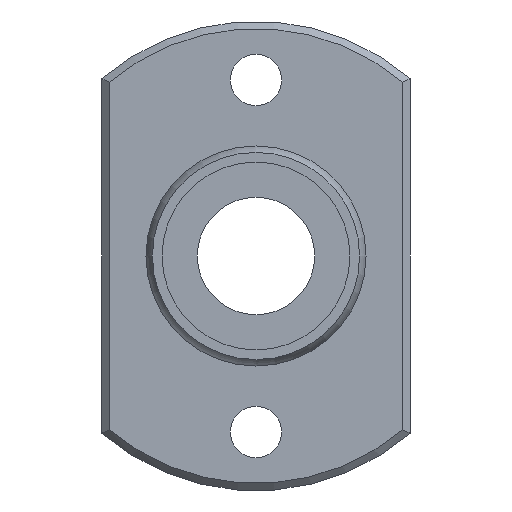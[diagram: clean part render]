
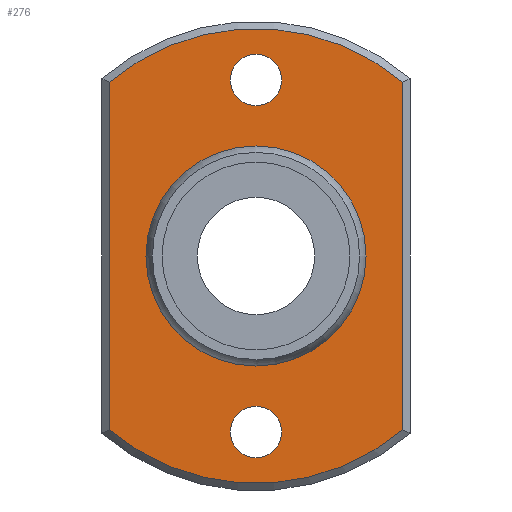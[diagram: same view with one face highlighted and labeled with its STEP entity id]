
A CAD part, left-side view. The second image highlights one B-rep face of the part: STEP entity #276.
In plain terms, the highlighted planar face has unit normal (-1, 0, 0).
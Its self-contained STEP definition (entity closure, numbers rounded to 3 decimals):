
#59=CARTESIAN_POINT('',(5.,10.,-11.843));
#60=VERTEX_POINT('',#59);
#68=CARTESIAN_POINT('',(5.,10.,11.843));
#69=VERTEX_POINT('',#68);
#70=CARTESIAN_POINT('',(5.,10.,-11.843));
#71=DIRECTION('',(0.0,0.0,1.0));
#72=VECTOR('',#71,23.685);
#73=LINE('',#70,#72);
#74=EDGE_CURVE('',#60,#69,#73,.T.);
#101=CARTESIAN_POINT('',(5.,-10.,11.843));
#102=VERTEX_POINT('',#101);
#103=CARTESIAN_POINT('',(5.,0.0,0.0));
#104=DIRECTION('',(1.0,0.0,0.0));
#105=DIRECTION('',(0.0,0.0,1.0));
#106=AXIS2_PLACEMENT_3D('',#103,#104,#105);
#107=CIRCLE('',#106,15.5);
#108=EDGE_CURVE('',#69,#102,#107,.T.);
#134=CARTESIAN_POINT('',(5.,-10.,-11.843));
#135=VERTEX_POINT('',#134);
#136=CARTESIAN_POINT('',(5.,-10.,11.843));
#137=DIRECTION('',(0.0,0.0,-1.0));
#138=VECTOR('',#137,23.685);
#139=LINE('',#136,#138);
#140=EDGE_CURVE('',#102,#135,#139,.T.);
#165=CARTESIAN_POINT('',(5.,0.0,0.0));
#166=DIRECTION('',(1.0,0.0,0.0));
#167=DIRECTION('',(0.0,0.0,-1.0));
#168=AXIS2_PLACEMENT_3D('',#165,#166,#167);
#169=CIRCLE('',#168,15.5);
#170=EDGE_CURVE('',#135,#60,#169,.T.);
#232=CARTESIAN_POINT('',(5.,0.0,11.655));
#233=DIRECTION('',(-1.0,0.0,0.0));
#234=DIRECTION('',(0.0,0.0,1.0));
#235=AXIS2_PLACEMENT_3D('',#232,#233,#234);
#236=PLANE('',#235);
#237=ORIENTED_EDGE('',*,*,#74,.F.);
#238=ORIENTED_EDGE('',*,*,#170,.F.);
#239=ORIENTED_EDGE('',*,*,#140,.F.);
#240=ORIENTED_EDGE('',*,*,#108,.F.);
#241=EDGE_LOOP('',(#237,#238,#239,#240));
#242=FACE_OUTER_BOUND('',#241,.T.);
#243=CARTESIAN_POINT('',(5.0,0.0,7.309));
#244=VERTEX_POINT('',#243);
#245=CARTESIAN_POINT('',(5.0,0.0,0.0));
#246=DIRECTION('',(-1.0,0.0,0.0));
#247=DIRECTION('',(0.0,0.0,1.0));
#248=AXIS2_PLACEMENT_3D('',#245,#246,#247);
#249=CIRCLE('',#248,7.309);
#250=EDGE_CURVE('',#244,#244,#249,.T.);
#251=ORIENTED_EDGE('',*,*,#250,.F.);
#252=EDGE_LOOP('',(#251));
#253=FACE_BOUND('',#252,.T.);
#254=CARTESIAN_POINT('',(5.0,-1.75,-12.));
#255=VERTEX_POINT('',#254);
#256=CARTESIAN_POINT('',(5.0,0.,-12.));
#257=DIRECTION('',(1.0,0.0,0.0));
#258=DIRECTION('',(0.0,1.0,0.0));
#259=AXIS2_PLACEMENT_3D('',#256,#257,#258);
#260=CIRCLE('',#259,1.75);
#261=EDGE_CURVE('',#255,#255,#260,.T.);
#262=ORIENTED_EDGE('',*,*,#261,.T.);
#263=EDGE_LOOP('',(#262));
#264=FACE_BOUND('',#263,.T.);
#265=CARTESIAN_POINT('',(5.0,-1.75,12.));
#266=VERTEX_POINT('',#265);
#267=CARTESIAN_POINT('',(5.0,0.,12.));
#268=DIRECTION('',(1.0,0.0,0.0));
#269=DIRECTION('',(0.0,1.0,0.0));
#270=AXIS2_PLACEMENT_3D('',#267,#268,#269);
#271=CIRCLE('',#270,1.75);
#272=EDGE_CURVE('',#266,#266,#271,.T.);
#273=ORIENTED_EDGE('',*,*,#272,.T.);
#274=EDGE_LOOP('',(#273));
#275=FACE_BOUND('',#274,.T.);
#276=ADVANCED_FACE('',(#242,#253,#264,#275),#236,.T.);
